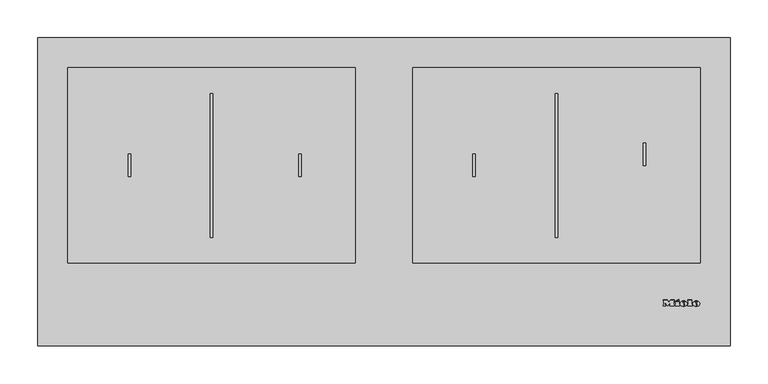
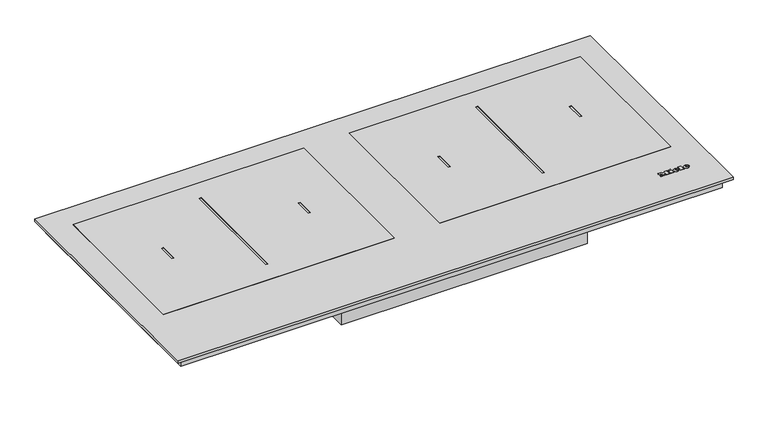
"""IFC4 building model written with IfcOpenShell, lengths in millimetres: proxy geometry, 11145160_D_KM7684FL : 26768470_D_11145160_KM7684FL."""

from ifc_helpers import new_model, si_unit, point, frame, frame_2d, origin, origin_with_axes, place, context, project, spatial, polyline, circle_curve, ellipse_curve, trimmed, segment, composite_curve, outline, extrude, source, transform, mapped, element, save
from ifc_brep_helpers import plane_surface, cylinder_surface, revolved_surface, extruded_surface, advanced_brep


def specialty_equipment_644c648f(model_context):
    return source(origin(), model_context, "Body", "SolidModel", [
        advanced_brep(
        [(412.46, 54.6948833, 4.4802537), (412.46, 55.5028828, 4.4811551), (417.812, 55.5028828, 4.4811551), (408.5, 55.5028828, 4.4811551), (410.7, 52.7988845, 4.4781386), (417.676, 54.6948833, 4.4802537), (415.26, 54.6948833, 4.4802537), (413.356, 53.7988838, 4.4792542), (412.46, 56.5268821, 4.4822974), (412.46, 57.3988816, 4.4832701), (413.828, 57.3988816, 4.4832701), (413.828, 56.5268821, 4.4822974), (412.46, 54.6959988, 3.4802543), (413.356, 53.7999994, 3.4792548), (415.26, 54.6959988, 3.4802543), (417.676, 54.6959988, 3.4802543), (410.7, 52.8, 3.4781393), (408.5, 55.5039983, 3.4811557), (417.812, 55.5039983, 3.4811557), (412.46, 55.5039983, 3.4811557), (412.46, 56.5279977, 3.482298), (413.828, 56.5279977, 3.482298), (413.828, 57.3999971, 3.4832707), (412.46, 57.3999971, 3.4832707)],
        [
            (0, 1),
            (1, 2),
            (2, 3, ellipse_curve(frame((413.156, 55.5028828, 4.4811551), z_axis=(0.0, -0.0011155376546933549, 0.9999993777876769), x_axis=(-1.0, 0.0, 0.0)), 4.656, 3.848)),
            (3, 4, circle_curve(frame((411.5960436, 55.7748826, 4.4814585), z_axis=(0.0, -0.0011155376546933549, 0.9999993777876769), x_axis=(0.0, -0.9999993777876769, -0.0011155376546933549)), 3.1079688)),
            (4, 5, circle_curve(frame((413.0627936, 57.8868813, 4.4838145), z_axis=(0.0, -0.0011155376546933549, 0.9999993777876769), x_axis=(0.0, -0.9999993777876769, -0.0011155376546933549)), 5.6098607)),
            (5, 6),
            (6, 7, circle_curve(frame((413.7470588, 55.4388828, 4.4810837), z_axis=(0.0, 0.0011155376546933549, -0.9999993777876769), x_axis=(0.0, -0.9999993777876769, -0.0011155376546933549)), 1.6859795)),
            (7, 0, circle_curve(frame((413.356, 54.6948833, 4.4802537), z_axis=(0.0, 0.0011155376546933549, -0.9999993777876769), x_axis=(0.0, -0.9999993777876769, -0.0011155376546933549)), 0.896)),
            (8, 9),
            (9, 10, circle_curve(frame((413.144, 57.3988816, 4.4832701), z_axis=(0.0, 0.0011155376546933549, -0.9999993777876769), x_axis=(0.0, -0.9999993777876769, -0.0011155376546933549)), 0.684)),
            (10, 11),
            (11, 8),
            (12, 13, circle_curve(frame((413.356, 54.6959988, 3.4802543), z_axis=(0.0, -0.0011155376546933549, 0.9999993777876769), x_axis=(0.0, -0.9999993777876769, -0.0011155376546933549)), 0.896)),
            (13, 14, circle_curve(frame((413.7470588, 55.4399984, 3.4810843), z_axis=(0.0, -0.0011155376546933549, 0.9999993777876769), x_axis=(0.0, -0.9999993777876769, -0.0011155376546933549)), 1.6859795)),
            (14, 15),
            (15, 16, circle_curve(frame((413.0627936, 57.8879968, 3.4838151), z_axis=(0.0, 0.0011155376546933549, -0.9999993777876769), x_axis=(0.0, -0.9999993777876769, -0.0011155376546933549)), 5.6098607)),
            (16, 17, circle_curve(frame((411.5960436, 55.7759981, 3.4814591), z_axis=(0.0, 0.0011155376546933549, -0.9999993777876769), x_axis=(0.0, -0.9999993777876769, -0.0011155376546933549)), 3.1079688)),
            (17, 18, ellipse_curve(frame((413.156, 55.5039983, 3.4811557), z_axis=(0.0, 0.0011155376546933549, -0.9999993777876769), x_axis=(-1.0, 0.0, 0.0)), 4.656, 3.848)),
            (18, 19),
            (19, 12),
            (20, 21),
            (21, 22),
            (22, 23, circle_curve(frame((413.144, 57.3999971, 3.4832707), z_axis=(0.0, -0.0011155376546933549, 0.9999993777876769), x_axis=(0.0, -0.9999993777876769, -0.0011155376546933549)), 0.684)),
            (23, 20),
            (0, 12),
            (19, 1),
            (18, 2),
            (5, 15),
            (14, 6),
            (17, 3),
            (13, 7),
            (16, 4),
            (8, 20),
            (23, 9),
            (22, 10),
            (21, 11),
        ],
        [
            plane_surface(frame((412.46, 55.5028828, 4.4811551), z_axis=(0.0, -0.0011155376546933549, 0.9999993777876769), x_axis=(0.0, 0.9999993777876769, 0.0011155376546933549))),
            plane_surface(frame((412.46, 55.5039983, 3.4811557), z_axis=(0.0, 0.0011155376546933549, -0.9999993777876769), x_axis=(0.0, -0.9999993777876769, -0.0011155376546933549))),
            plane_surface(frame((412.46, 54.6948833, 4.4802537), z_axis=(1.0000000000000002, 0.0, 0.0), x_axis=(0.0, 0.001115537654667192, -0.999999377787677))),
            plane_surface(frame((412.46, 55.5028828, 4.4811551), z_axis=(0.0, -0.999999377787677, -0.001115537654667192), x_axis=(0.0, 0.001115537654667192, -0.999999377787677))),
            plane_surface(frame((417.676, 54.6948833, 4.4802537), z_axis=(0.0, 0.999999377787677, 0.001115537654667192), x_axis=(0.0, 0.001115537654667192, -0.999999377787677))),
            extruded_surface(trimmed(ellipse_curve(frame((413.156, 55.5051139, 2.4811563), z_axis=(0.0, -0.0011155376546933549, 0.9999993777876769), x_axis=(-1.0, 0.0, 0.0)), 4.656, 3.848), [point((417.812, 55.5051139, 2.4811563))], [point((408.5, 55.5051139, 2.4811563))], True, "CARTESIAN"), (0.0, -0.001115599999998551, 0.9999994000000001), 1.00000002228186),
            revolved_surface(polyline([(413.7470588, 53.75401994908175, 3.479203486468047), (413.7470588, 53.75290441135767, 4.4792029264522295)]), (413.7470588, 55.4399984, 3.4810843), (0.0, 0.0011155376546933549, -0.9999993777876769)),
            revolved_surface(polyline([(413.356, 53.79999935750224, 3.4792547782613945), (413.356, 53.79888381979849, 4.479254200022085)]), (413.356, 54.6959988, 3.4802543), (0.0, 0.0011155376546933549, -0.9999993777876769)),
            cylinder_surface(frame((411.5960436, 55.7759981, 3.4814591), z_axis=(0.0, -0.0011155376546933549, 0.9999993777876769), x_axis=(0.0, -0.9999993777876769, -0.0011155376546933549)), 3.1079688),
            cylinder_surface(frame((413.0627936, 57.8879968, 3.4838151), z_axis=(0.0, -0.0011155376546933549, 0.9999993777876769), x_axis=(0.0, -0.9999993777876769, -0.0011155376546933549)), 5.6098607),
            plane_surface(frame((412.46, 56.5268821, 4.4822974), z_axis=(1.0000000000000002, 0.0, 0.0), x_axis=(0.0, 0.001115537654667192, -0.999999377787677))),
            revolved_surface(polyline([(413.144, 56.71599752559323, 3.4825076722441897), (413.144, 56.714881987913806, 4.482507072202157)]), (413.144, 57.3999971, 3.4832707), (0.0, 0.0011155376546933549, -0.9999993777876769)),
            plane_surface(frame((413.828, 57.3988816, 4.4832701), z_axis=(-1.0000000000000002, 0.0, 0.0), x_axis=(0.0, 0.001115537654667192, -0.999999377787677))),
            plane_surface(frame((413.828, 56.5268821, 4.4822974), z_axis=(0.0, 0.999999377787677, 0.001115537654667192), x_axis=(0.0, 0.001115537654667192, -0.999999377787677))),
        ],
        [
            (0, [[1, 2, 3, 4, 5, 6, 7, 8], [9, 10, 11, 12]]),
            (1, [[13, 14, 15, 16, 17, 18, 19, 20], [21, 22, 23, 24]]),
            (2, [[-1, 25, -20, 26]]),
            (3, [[-2, -26, -19, 27]]),
            (4, [[-6, 28, -15, 29]]),
            (5, [[-3, -27, -18, 30]]),
            (6, [[-7, -29, -14, 31]]),
            (7, [[-8, -31, -13, -25]]),
            (8, [[-4, -30, -17, 32]]),
            (9, [[-5, -32, -16, -28]]),
            (10, [[-9, 33, -24, 34]]),
            (11, [[-10, -34, -23, 35]]),
            (12, [[-11, -35, -22, 36]]),
            (13, [[-12, -36, -21, -33]]),
        ],
    ),
        advanced_brep(
        [(395.764, 54.6948833, 4.4802537), (395.764, 55.5028828, 4.4811551), (401.116, 55.5028828, 4.4811551), (391.804, 55.5028828, 4.4811551), (394.004, 52.7988845, 4.4781386), (400.98, 54.6948833, 4.4802537), (398.564, 54.6948833, 4.4802537), (396.66, 53.7988838, 4.4792542), (395.764, 56.5268821, 4.4822974), (395.764, 57.3988816, 4.4832701), (397.132, 57.3988816, 4.4832701), (397.132, 56.5268821, 4.4822974), (395.764, 54.6959988, 3.4802543), (396.66, 53.7999994, 3.4792548), (398.564, 54.6959988, 3.4802543), (400.98, 54.6959988, 3.4802543), (394.004, 52.8, 3.4781393), (391.804, 55.5039983, 3.4811557), (401.116, 55.5039983, 3.4811557), (395.764, 55.5039983, 3.4811557), (395.764, 56.5279977, 3.482298), (397.132, 56.5279977, 3.482298), (397.132, 57.3999971, 3.4832707), (395.764, 57.3999971, 3.4832707)],
        [
            (0, 1),
            (1, 2),
            (2, 3, ellipse_curve(frame((396.46, 55.5028828, 4.4811551), z_axis=(0.0, -0.0011155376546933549, 0.9999993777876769), x_axis=(-1.0, 0.0, 0.0)), 4.656, 3.848)),
            (3, 4, circle_curve(frame((394.9000436, 55.7748826, 4.4814585), z_axis=(0.0, -0.0011155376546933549, 0.9999993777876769), x_axis=(0.0, -0.9999993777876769, -0.0011155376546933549)), 3.1079688)),
            (4, 5, circle_curve(frame((396.3667936, 57.8868813, 4.4838145), z_axis=(0.0, -0.0011155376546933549, 0.9999993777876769), x_axis=(0.0, -0.9999993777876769, -0.0011155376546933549)), 5.6098607)),
            (5, 6),
            (6, 7, circle_curve(frame((397.0510588, 55.4388828, 4.4810837), z_axis=(0.0, 0.0011155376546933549, -0.9999993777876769), x_axis=(0.0, -0.9999993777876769, -0.0011155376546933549)), 1.6859795)),
            (7, 0, circle_curve(frame((396.66, 54.6948833, 4.4802537), z_axis=(0.0, 0.0011155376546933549, -0.9999993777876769), x_axis=(0.0, -0.9999993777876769, -0.0011155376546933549)), 0.896)),
            (8, 9),
            (9, 10, circle_curve(frame((396.448, 57.3988816, 4.4832701), z_axis=(0.0, 0.0011155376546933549, -0.9999993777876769), x_axis=(0.0, -0.9999993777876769, -0.0011155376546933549)), 0.684)),
            (10, 11),
            (11, 8),
            (12, 13, circle_curve(frame((396.66, 54.6959988, 3.4802543), z_axis=(0.0, -0.0011155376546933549, 0.9999993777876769), x_axis=(0.0, -0.9999993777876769, -0.0011155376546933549)), 0.896)),
            (13, 14, circle_curve(frame((397.0510588, 55.4399984, 3.4810843), z_axis=(0.0, -0.0011155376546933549, 0.9999993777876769), x_axis=(0.0, -0.9999993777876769, -0.0011155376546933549)), 1.6859795)),
            (14, 15),
            (15, 16, circle_curve(frame((396.3667936, 57.8879968, 3.4838151), z_axis=(0.0, 0.0011155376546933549, -0.9999993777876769), x_axis=(0.0, -0.9999993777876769, -0.0011155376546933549)), 5.6098607)),
            (16, 17, circle_curve(frame((394.9000436, 55.7759981, 3.4814591), z_axis=(0.0, 0.0011155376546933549, -0.9999993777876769), x_axis=(0.0, -0.9999993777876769, -0.0011155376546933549)), 3.1079688)),
            (17, 18, ellipse_curve(frame((396.46, 55.5039983, 3.4811557), z_axis=(0.0, 0.0011155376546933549, -0.9999993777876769), x_axis=(-1.0, 0.0, 0.0)), 4.656, 3.848)),
            (18, 19),
            (19, 12),
            (20, 21),
            (21, 22),
            (22, 23, circle_curve(frame((396.448, 57.3999971, 3.4832707), z_axis=(0.0, -0.0011155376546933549, 0.9999993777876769), x_axis=(0.0, -0.9999993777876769, -0.0011155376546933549)), 0.684)),
            (23, 20),
            (0, 12),
            (19, 1),
            (18, 2),
            (5, 15),
            (14, 6),
            (17, 3),
            (13, 7),
            (16, 4),
            (8, 20),
            (23, 9),
            (22, 10),
            (21, 11),
        ],
        [
            plane_surface(frame((395.764, 55.5028828, 4.4811551), z_axis=(0.0, -0.0011155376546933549, 0.9999993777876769), x_axis=(0.0, 0.9999993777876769, 0.0011155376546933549))),
            plane_surface(frame((395.764, 55.5039983, 3.4811557), z_axis=(0.0, 0.0011155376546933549, -0.9999993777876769), x_axis=(0.0, -0.9999993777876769, -0.0011155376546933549))),
            plane_surface(frame((395.764, 54.6948833, 4.4802537), z_axis=(1.0000000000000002, 0.0, 0.0), x_axis=(0.0, 0.001115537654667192, -0.999999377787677))),
            plane_surface(frame((395.764, 55.5028828, 4.4811551), z_axis=(0.0, -0.999999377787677, -0.001115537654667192), x_axis=(0.0, 0.001115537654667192, -0.999999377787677))),
            plane_surface(frame((400.98, 54.6948833, 4.4802537), z_axis=(0.0, 0.999999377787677, 0.001115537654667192), x_axis=(0.0, 0.001115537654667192, -0.999999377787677))),
            extruded_surface(trimmed(ellipse_curve(frame((396.46, 55.5051139, 2.4811563), z_axis=(0.0, -0.0011155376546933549, 0.9999993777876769), x_axis=(-1.0, 0.0, 0.0)), 4.656, 3.848), [point((401.116, 55.5051139, 2.4811563))], [point((391.804, 55.5051139, 2.4811563))], True, "CARTESIAN"), (0.0, -0.001115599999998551, 0.9999994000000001), 1.00000002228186),
            revolved_surface(polyline([(397.0510588, 53.75401994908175, 3.479203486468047), (397.0510588, 53.75290441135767, 4.4792029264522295)]), (397.0510588, 55.4399984, 3.4810843), (0.0, 0.0011155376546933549, -0.9999993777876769)),
            revolved_surface(polyline([(396.66, 53.79999935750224, 3.4792547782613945), (396.66, 53.79888381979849, 4.479254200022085)]), (396.66, 54.6959988, 3.4802543), (0.0, 0.0011155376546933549, -0.9999993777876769)),
            cylinder_surface(frame((394.9000436, 55.7759981, 3.4814591), z_axis=(0.0, -0.0011155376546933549, 0.9999993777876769), x_axis=(0.0, -0.9999993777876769, -0.0011155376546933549)), 3.1079688),
            cylinder_surface(frame((396.3667936, 57.8879968, 3.4838151), z_axis=(0.0, -0.0011155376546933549, 0.9999993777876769), x_axis=(0.0, -0.9999993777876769, -0.0011155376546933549)), 5.6098607),
            plane_surface(frame((395.764, 56.5268821, 4.4822974), z_axis=(1.0000000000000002, 0.0, 0.0), x_axis=(0.0, 0.001115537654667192, -0.999999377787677))),
            revolved_surface(polyline([(396.448, 56.71599752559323, 3.4825076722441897), (396.448, 56.714881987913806, 4.482507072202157)]), (396.448, 57.3999971, 3.4832707), (0.0, 0.0011155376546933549, -0.9999993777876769)),
            plane_surface(frame((397.132, 57.3988816, 4.4832701), z_axis=(-1.0000000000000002, 0.0, 0.0), x_axis=(0.0, 0.001115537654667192, -0.999999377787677))),
            plane_surface(frame((397.132, 56.5268821, 4.4822974), z_axis=(0.0, 0.999999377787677, 0.001115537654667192), x_axis=(0.0, 0.001115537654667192, -0.999999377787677))),
        ],
        [
            (0, [[1, 2, 3, 4, 5, 6, 7, 8], [9, 10, 11, 12]]),
            (1, [[13, 14, 15, 16, 17, 18, 19, 20], [21, 22, 23, 24]]),
            (2, [[-1, 25, -20, 26]]),
            (3, [[-2, -26, -19, 27]]),
            (4, [[-6, 28, -15, 29]]),
            (5, [[-3, -27, -18, 30]]),
            (6, [[-7, -29, -14, 31]]),
            (7, [[-8, -31, -13, -25]]),
            (8, [[-4, -30, -17, 32]]),
            (9, [[-5, -32, -16, -28]]),
            (10, [[-9, 33, -24, 34]]),
            (11, [[-10, -34, -23, 35]]),
            (12, [[-11, -35, -22, 36]]),
            (13, [[-12, -36, -21, -33]]),
        ],
    ),
        extrude(outline(polyline([(0.0, 0.0), (-0.0109086, -2.9993294), (-1.4390415, -2.9920868), (-1.4315307, 0.0), (0.0, 0.0)])), frame((387.02, 60.3279953, 3.486537), z_axis=(0.0, -0.001115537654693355, 0.999999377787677), x_axis=(-0.4247202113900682, 0.9053240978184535, 0.0010099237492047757)), (0.0, 0.0, 1.0), 1.0),
        extrude(outline(polyline([(-0.4933908, 2.4141097), (-2.7800844, -2.4601583), (-7.0459741, -0.4588767), (-7.4401145, -1.299018), (-8.6568709, -0.728194), (-5.9760369, 4.9862153), (-4.7592805, 4.4153913), (-5.1636142, 3.5535222), (-2.1941493, 2.1604399), (-1.7898157, 3.022309), (-0.4933908, 2.4141097)])), frame((387.02, 60.3279953, 3.486537), z_axis=(0.0, -0.001115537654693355, 0.999999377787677), x_axis=(-0.4247202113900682, 0.9053240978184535, 0.0010099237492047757)), (0.0, 0.0, 1.0), 1.0),
        extrude(outline(polyline([(0.0, 0.0), (0.0, -1.304), (-5.504, -1.304), (-5.504, 5.3519999), (-6.488, 5.3519999), (-6.488, 6.696), (0.0, 6.696), (0.0, 5.3519999), (-0.96, 5.3519999), (-0.96, 0.0), (0.0, 0.0)])), frame((401.564, 59.4959958, 3.4856089), z_axis=(0.0, -0.0011155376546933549, 0.9999993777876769), x_axis=(-1.0, 0.0, 0.0)), (0.0, 0.0, 1.0), 1.0),
        extrude(outline(polyline([(0.0, 0.0), (0.0, -1.304), (-5.576, -1.304), (-7.92, 1.696), (-10.256, -1.304), (-15.128, -1.304), (-15.128, 0.0), (-14.112, 0.0), (-14.112, 5.3519999), (-15.128, 5.3519999), (-15.128, 6.696), (-8.744, 6.696), (-8.744, 5.3519999), (-9.728, 5.3519999), (-9.728, 1.8807777), (-6.136, 6.696), (-2.56, 1.9488752), (-2.56, 5.3519999), (-3.52, 5.3519999), (-3.52, 6.696), (0.0, 6.696), (0.0, 5.3519999), (-0.968, 5.3519999), (-0.968, 0.0), (0.0, 0.0)])), frame((369.1, 59.4959958, 3.4856089), z_axis=(0.0, -0.0011155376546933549, 0.9999993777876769), x_axis=(-1.0, 0.0, 0.0)), (0.0, 0.0, 1.0), 1.0),
        extrude(outline(polyline([(169.5772603, 358.0), (162.2, 358.0), (162.2, 359.2557039), (168.3215564, 359.2557039), (168.3215564, 362.5519266), (162.670889, 362.5519266), (162.670889, 363.8076304), (168.3215564, 363.8076304), (168.3215564, 366.7899271), (162.356963, 366.7899271), (162.356963, 368.045631), (169.5772603, 368.045631), (169.5772603, 358.0)])), frame((0.0, 0.0, -77.5), z_axis=(0.0, 0.0, 1.0), x_axis=(1.0, 0.0, 0.0)), (0.0, 0.0, 1.0), 1.0),
        extrude(outline(polyline([(160.3164442, 358.0), (154.0379248, 358.0), (154.0379248, 359.2557039), (159.0607403, 359.2557039), (159.0607403, 368.045631), (160.3164442, 368.045631), (160.3164442, 358.0)])), frame((0.0, 0.0, -77.5), z_axis=(0.0, 0.0, 1.0), x_axis=(1.0, 0.0, 0.0)), (0.0, 0.0, 1.0), 1.0),
        extrude(outline(polyline([(458.0, 408.0), (458.0, 0.0), (-458.0, 0.0), (-458.0, 408.0), (458.0, 408.0)])), origin_with_axes(), (0.0, 0.0, 1.0), 4.0),
        extrude(outline(polyline([(446.5, 396.5), (446.5, 11.5), (-446.5, 11.5), (-446.5, 396.5), (446.5, 396.5)])), frame((0.0, 0.0, -16.8), z_axis=(0.0, 0.0, 1.0), x_axis=(1.0, 0.0, 0.0)), (0.0, 0.0, 1.0), 16.8),
        extrude(outline(polyline([(-174.5, 261.2), (-195.9, 261.2), (-195.9, 344.6), (-174.5, 344.6), (-174.5, 394.8), (231.5, 394.8), (231.5, 23.8), (-174.5, 23.8), (-174.5, 261.2)])), frame((0.0, 0.0, -46.5), z_axis=(0.0, 0.0, 1.0), x_axis=(1.0, 0.0, 0.0)), (0.0, 0.0, 1.0), 29.7),
        extrude(outline(composite_curve([segment(trimmed(circle_curve(frame_2d((162.2, 363.0)), 7.5), [point((162.2, 370.5))], [point((162.2, 355.5))], False, "CARTESIAN"), True, "CONTINUOUS"), segment(trimmed(circle_curve(frame_2d((162.2, 363.0)), 7.5), [point((162.2, 355.5))], [point((162.2, 370.5))], False, "CARTESIAN"), True, "CONTINUOUS")], self_intersect=False)), frame((0.0, 0.0, -76.5), z_axis=(0.0, 0.0, 1.0), x_axis=(1.0, 0.0, 0.0)), (0.0, 0.0, 1.0), 30.0),
        extrude(outline(polyline([(418.25, 368.25), (418.25, 109.75), (37.75, 109.75), (37.75, 368.25), (418.25, 368.25)]), holes=[polyline([(226.4, 334.3), (226.4, 143.7), (229.6, 143.7), (229.6, 334.3), (226.4, 334.3)]), polyline([(120.85, 253.65), (117.65, 253.65), (117.65, 224.35), (120.85, 224.35), (120.85, 253.65)]), polyline([(346.35, 268.3), (343.15, 268.3), (343.15, 239.0), (346.35, 239.0), (346.35, 268.3)])]), frame((0.0, 0.0, 4.0), z_axis=(0.0, 0.0, 1.0), x_axis=(1.0, 0.0, 0.0)), (0.0, 0.0, 1.0), 1.0),
        extrude(outline(polyline([(-37.75, 368.25), (-37.75, 109.75), (-418.25, 109.75), (-418.25, 368.25), (-37.75, 368.25)]), holes=[polyline([(-226.4, 334.3), (-229.6, 334.3), (-229.6, 143.7), (-226.4, 143.7), (-226.4, 334.3)]), polyline([(-335.15, 253.65), (-338.35, 253.65), (-338.35, 224.35), (-335.15, 224.35), (-335.15, 253.65)]), polyline([(-109.65, 253.65), (-112.85, 253.65), (-112.85, 224.35), (-109.65, 224.35), (-109.65, 253.65)])]), frame((0.0, 0.0, 4.0), z_axis=(0.0, 0.0, 1.0), x_axis=(1.0, 0.0, 0.0)), (0.0, 0.0, 1.0), 1.0),
        extrude(outline(composite_curve([segment(trimmed(circle_curve(frame_2d((-439.0, 76.0)), 3.0), [point((-439.0, 79.0))], [point((-439.0, 73.0))], False, "CARTESIAN"), True, "CONTINUOUS"), segment(trimmed(circle_curve(frame_2d((-439.0, 76.0)), 3.0), [point((-439.0, 73.0))], [point((-439.0, 79.0))], False, "CARTESIAN"), True, "CONTINUOUS")], self_intersect=False)), frame((0.0, 0.0, -22.0), z_axis=(0.0, 0.0, 1.0), x_axis=(1.0, 0.0, 0.0)), (0.0, 0.0, 1.0), 5.2),
        extrude(outline(composite_curve([segment(trimmed(circle_curve(frame_2d((439.0, 332.0)), 3.0), [point((439.0, 335.0))], [point((439.0, 329.0))], False, "CARTESIAN"), True, "CONTINUOUS"), segment(trimmed(circle_curve(frame_2d((439.0, 332.0)), 3.0), [point((439.0, 329.0))], [point((439.0, 335.0))], False, "CARTESIAN"), True, "CONTINUOUS")], self_intersect=False)), frame((0.0, 0.0, -22.0), z_axis=(0.0, 0.0, 1.0), x_axis=(1.0, 0.0, 0.0)), (0.0, 0.0, 1.0), 5.2),
    ])


if __name__ == "__main__":
    model = new_model("IFC4")
    model_context = context("Model", 3, world=origin())
    ifc_project = project(units=[si_unit("LENGTHUNIT", "METRE", prefix="MILLI")], contexts=[model_context])
    site = spatial("IfcSite", under=ifc_project)
    building = spatial("IfcBuilding", under=site)
    placement = place(None, origin())
    specialty_equipment_shape = specialty_equipment_644c648f(model_context)
    element("IfcBuildingElementProxy", 1, Name="11145160_D_KM7684FL : 26768470_D_11145160_KM7684FL", ObjectType="11145160_D_KM7684FL : 26768470_D_11145160_KM7684FL", at=placement, inside=building, context=model_context, shape_type="MappedRepresentation", body=[
        mapped(specialty_equipment_shape, transform((0.0, 0.0, 0.0), x_axis=(1.0, 0.0, 0.0), y_axis=(0.0, 1.0, 0.0), z_axis=(0.0, 0.0, 1.0))),
    ])
    save(model, "model.ifc")
